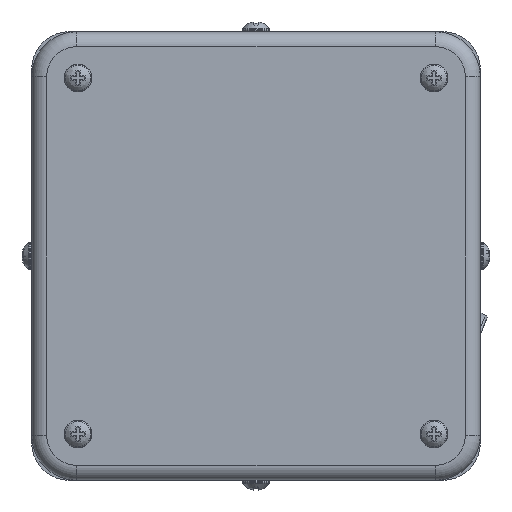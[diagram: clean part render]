
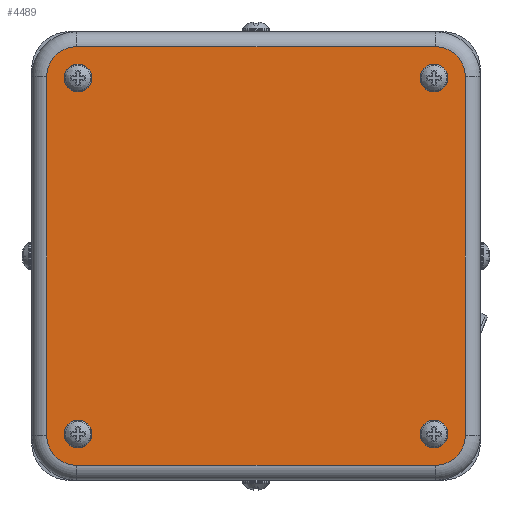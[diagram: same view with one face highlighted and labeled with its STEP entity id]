
A CAD part, left-side view. The second image highlights one B-rep face of the part: STEP entity #4489.
In plain terms, the highlighted planar face has unit normal (-1, 0, 0).
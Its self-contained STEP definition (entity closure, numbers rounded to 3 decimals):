
#101=CARTESIAN_POINT('',(-60.,35.709,32.909));
#102=VERTEX_POINT('',#101);
#103=CARTESIAN_POINT('',(-60.,35.709,35.709));
#104=DIRECTION('',(1.0,0.0,0.0));
#105=DIRECTION('',(0.0,0.0,1.0));
#106=AXIS2_PLACEMENT_3D('',#103,#104,#105);
#107=CIRCLE('',#106,2.8);
#108=EDGE_CURVE('',#102,#102,#107,.T.);
#710=CARTESIAN_POINT('',(-60.,35.709,-38.509));
#711=VERTEX_POINT('',#710);
#712=CARTESIAN_POINT('',(-60.,35.709,-35.709));
#713=DIRECTION('',(1.0,0.0,0.0));
#714=DIRECTION('',(0.0,0.0,1.0));
#715=AXIS2_PLACEMENT_3D('',#712,#713,#714);
#716=CIRCLE('',#715,2.8);
#717=EDGE_CURVE('',#711,#711,#716,.T.);
#1319=CARTESIAN_POINT('',(-60.,-35.709,-38.509));
#1320=VERTEX_POINT('',#1319);
#1321=CARTESIAN_POINT('',(-60.,-35.709,-35.709));
#1322=DIRECTION('',(1.0,0.0,0.0));
#1323=DIRECTION('',(0.0,0.0,1.0));
#1324=AXIS2_PLACEMENT_3D('',#1321,#1322,#1323);
#1325=CIRCLE('',#1324,2.8);
#1326=EDGE_CURVE('',#1320,#1320,#1325,.T.);
#4394=CARTESIAN_POINT('',(-60.,-7.027,-7.027));
#4395=DIRECTION('',(1.0,0.0,0.0));
#4396=DIRECTION('',(0.0,0.0,-1.0));
#4397=AXIS2_PLACEMENT_3D('',#4394,#4395,#4396);
#4398=PLANE('',#4397);
#4399=CARTESIAN_POINT('',(-60.,-42.,-36.));
#4400=VERTEX_POINT('',#4399);
#4401=CARTESIAN_POINT('',(-60.,-36.,-42.));
#4402=VERTEX_POINT('',#4401);
#4403=CARTESIAN_POINT('',(-60.,-36.,-36.));
#4404=DIRECTION('',(1.,0.,0.));
#4405=DIRECTION('',(0.,-0.707,-0.707));
#4406=AXIS2_PLACEMENT_3D('',#4403,#4404,#4405);
#4407=CIRCLE('',#4406,6.);
#4408=EDGE_CURVE('',#4400,#4402,#4407,.T.);
#4409=ORIENTED_EDGE('',*,*,#4408,.F.);
#4410=CARTESIAN_POINT('',(-60.,-42.0,36.));
#4411=VERTEX_POINT('',#4410);
#4412=CARTESIAN_POINT('',(-60.,-42.0,36.));
#4413=DIRECTION('',(0.0,0.0,-1.0));
#4414=VECTOR('',#4413,72.0);
#4415=LINE('',#4412,#4414);
#4416=EDGE_CURVE('',#4411,#4400,#4415,.T.);
#4417=ORIENTED_EDGE('',*,*,#4416,.F.);
#4418=CARTESIAN_POINT('',(-60.,-36.0,42.));
#4419=VERTEX_POINT('',#4418);
#4420=CARTESIAN_POINT('',(-60.,-36.,36.));
#4421=DIRECTION('',(1.0,0.,0.));
#4422=DIRECTION('',(0.,-0.707,0.707));
#4423=AXIS2_PLACEMENT_3D('',#4420,#4421,#4422);
#4424=CIRCLE('',#4423,6.);
#4425=EDGE_CURVE('',#4419,#4411,#4424,.T.);
#4426=ORIENTED_EDGE('',*,*,#4425,.F.);
#4427=CARTESIAN_POINT('',(-60.,36.0,42.));
#4428=VERTEX_POINT('',#4427);
#4429=CARTESIAN_POINT('',(-60.,36.0,42.));
#4430=DIRECTION('',(0.0,-1.0,0.0));
#4431=VECTOR('',#4430,72.0);
#4432=LINE('',#4429,#4431);
#4433=EDGE_CURVE('',#4428,#4419,#4432,.T.);
#4434=ORIENTED_EDGE('',*,*,#4433,.F.);
#4435=CARTESIAN_POINT('',(-60.,42.0,36.));
#4436=VERTEX_POINT('',#4435);
#4437=CARTESIAN_POINT('',(-60.,36.,36.));
#4438=DIRECTION('',(1.,0.,0.));
#4439=DIRECTION('',(0.,0.707,0.707));
#4440=AXIS2_PLACEMENT_3D('',#4437,#4438,#4439);
#4441=CIRCLE('',#4440,6.);
#4442=EDGE_CURVE('',#4436,#4428,#4441,.T.);
#4443=ORIENTED_EDGE('',*,*,#4442,.F.);
#4444=CARTESIAN_POINT('',(-60.,42.,-36.));
#4445=VERTEX_POINT('',#4444);
#4446=CARTESIAN_POINT('',(-60.,42.,-36.));
#4447=DIRECTION('',(0.0,0.0,1.0));
#4448=VECTOR('',#4447,72.);
#4449=LINE('',#4446,#4448);
#4450=EDGE_CURVE('',#4445,#4436,#4449,.T.);
#4451=ORIENTED_EDGE('',*,*,#4450,.F.);
#4452=CARTESIAN_POINT('',(-60.,36.,-42.));
#4453=VERTEX_POINT('',#4452);
#4454=CARTESIAN_POINT('',(-60.,36.,-36.));
#4455=DIRECTION('',(1.0,0.,0.));
#4456=DIRECTION('',(0.,0.707,-0.707));
#4457=AXIS2_PLACEMENT_3D('',#4454,#4455,#4456);
#4458=CIRCLE('',#4457,6.);
#4459=EDGE_CURVE('',#4453,#4445,#4458,.T.);
#4460=ORIENTED_EDGE('',*,*,#4459,.F.);
#4461=CARTESIAN_POINT('',(-60.,-36.,-42.));
#4462=DIRECTION('',(0.0,1.0,0.0));
#4463=VECTOR('',#4462,72.0);
#4464=LINE('',#4461,#4463);
#4465=EDGE_CURVE('',#4402,#4453,#4464,.T.);
#4466=ORIENTED_EDGE('',*,*,#4465,.F.);
#4467=EDGE_LOOP('',(#4409,#4417,#4426,#4434,#4443,#4451,#4460,#4466));
#4468=FACE_OUTER_BOUND('',#4467,.T.);
#4469=ORIENTED_EDGE('',*,*,#108,.T.);
#4470=EDGE_LOOP('',(#4469));
#4471=FACE_BOUND('',#4470,.T.);
#4472=CARTESIAN_POINT('',(-60.,-35.709,32.909));
#4473=VERTEX_POINT('',#4472);
#4474=CARTESIAN_POINT('',(-60.,-35.709,35.709));
#4475=DIRECTION('',(1.0,0.0,0.0));
#4476=DIRECTION('',(0.0,0.0,1.0));
#4477=AXIS2_PLACEMENT_3D('',#4474,#4475,#4476);
#4478=CIRCLE('',#4477,2.8);
#4479=EDGE_CURVE('',#4473,#4473,#4478,.T.);
#4480=ORIENTED_EDGE('',*,*,#4479,.T.);
#4481=EDGE_LOOP('',(#4480));
#4482=FACE_BOUND('',#4481,.T.);
#4483=ORIENTED_EDGE('',*,*,#717,.T.);
#4484=EDGE_LOOP('',(#4483));
#4485=FACE_BOUND('',#4484,.T.);
#4486=ORIENTED_EDGE('',*,*,#1326,.T.);
#4487=EDGE_LOOP('',(#4486));
#4488=FACE_BOUND('',#4487,.T.);
#4489=ADVANCED_FACE('',(#4468,#4471,#4482,#4485,#4488),#4398,.F.);
